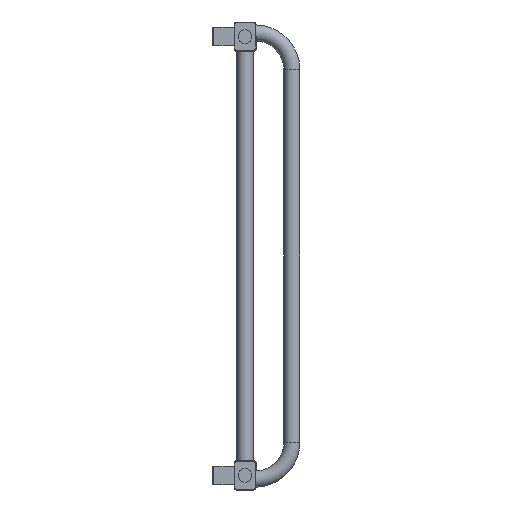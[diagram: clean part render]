
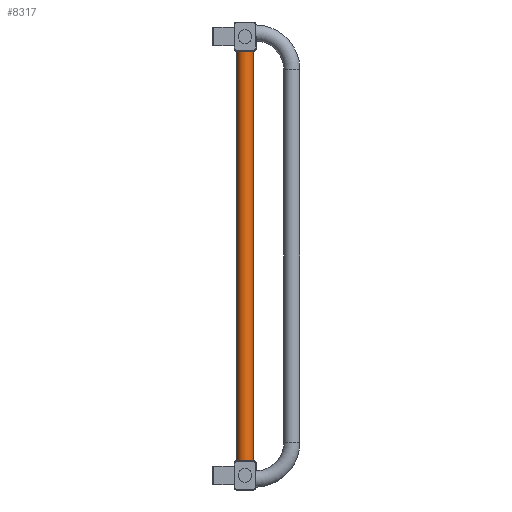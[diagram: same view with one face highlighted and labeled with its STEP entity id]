
A CAD part, left-side view. The second image highlights one B-rep face of the part: STEP entity #8317.
In plain terms, the highlighted cylindrical face has radius 11 mm (diameter 22 mm), a full revolution.
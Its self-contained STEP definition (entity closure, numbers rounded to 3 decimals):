
#8290=CARTESIAN_POINT('',(31.5,0.,600.));
#8291=DIRECTION('',(0.,0.,-1.0));
#8292=DIRECTION('',(0.868,-0.496,0.));
#8293=AXIS2_PLACEMENT_3D('',#8290,#8291,#8292);
#8294=CYLINDRICAL_SURFACE('',#8293,11.);
#8295=CARTESIAN_POINT('',(21.947,5.454,40.));
#8296=VERTEX_POINT('',#8295);
#8297=CARTESIAN_POINT('',(31.5,0.,40.));
#8298=DIRECTION('',(0.,0.,1.0));
#8299=DIRECTION('',(0.868,-0.496,0.));
#8300=AXIS2_PLACEMENT_3D('',#8297,#8298,#8299);
#8301=CIRCLE('',#8300,11.);
#8302=EDGE_CURVE('',#8296,#8296,#8301,.T.);
#8303=ORIENTED_EDGE('',*,*,#8302,.T.);
#8304=EDGE_LOOP('',(#8303));
#8305=FACE_OUTER_BOUND('',#8304,.T.);
#8306=CARTESIAN_POINT('',(21.947,5.454,600.));
#8307=VERTEX_POINT('',#8306);
#8308=CARTESIAN_POINT('',(31.5,0.,600.));
#8309=DIRECTION('',(0.,0.,1.0));
#8310=DIRECTION('',(0.868,-0.496,0.));
#8311=AXIS2_PLACEMENT_3D('',#8308,#8309,#8310);
#8312=CIRCLE('',#8311,11.);
#8313=EDGE_CURVE('',#8307,#8307,#8312,.T.);
#8314=ORIENTED_EDGE('',*,*,#8313,.F.);
#8315=EDGE_LOOP('',(#8314));
#8316=FACE_BOUND('',#8315,.T.);
#8317=ADVANCED_FACE('',(#8305,#8316),#8294,.T.);
